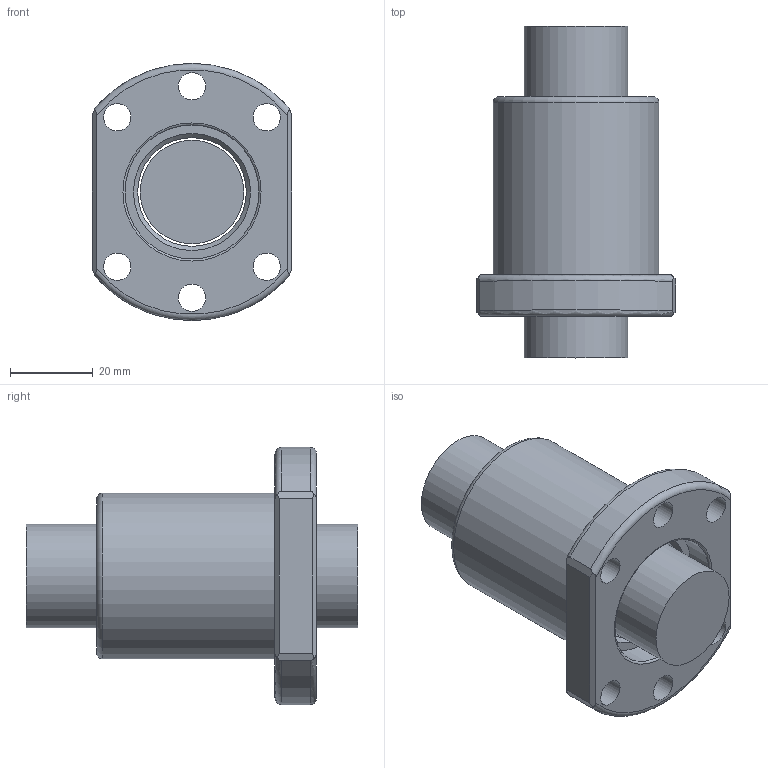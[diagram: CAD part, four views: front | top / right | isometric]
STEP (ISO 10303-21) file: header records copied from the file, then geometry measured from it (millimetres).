
FILE_DESCRIPTION(/* description */ (''),/* implementation_level */ '2;1');
FILE_NAME(/* name */ '2505.prt.step',/* time_stamp */ '2008-12-05T16:31:49+08:00',/* author */ (''),/* organization */ (''),/* preprocessor_version */ 'ST-DEVELOPER v11',/* originating_system */ 'SIEMENS UGS NX 6.0',/* authorisation */ '');
FILE_SCHEMA (('AUTOMOTIVE_DESIGN { 1 0 10303 214 1 1 1 1 }'));
Length unit declared in the file: millimetre
Products named in the file (1): 2505
Bounding box: 48 x 80 x 62 mm (x, y, z)
Volume: 84741.3 mm3; surface area: 23744.4 mm2
Topology: 2 solids, 2 shells, 39 faces, 100 edges, 68 vertices
Faces by surface type: plane 17, cylinder 13, torus 7, cone 2
Full cylindrical faces by diameter (mm): 6.6 x6, 24.95 x1, 26.2 x1, 32.3 x2, 40 x1
Entity records: 1306 total; most frequent: CARTESIAN_POINT 414, DIRECTION 174, ORIENTED_EDGE 150, EDGE_CURVE 75, AXIS2_PLACEMENT_3D 75, EDGE_LOOP 72, VERTEX_POINT 59, FACE_BOUND 54
